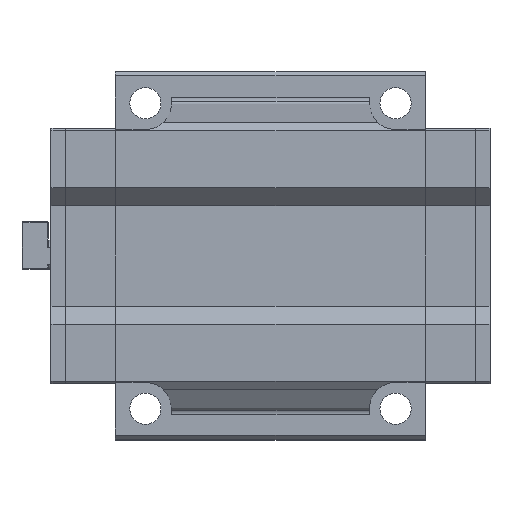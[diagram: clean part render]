
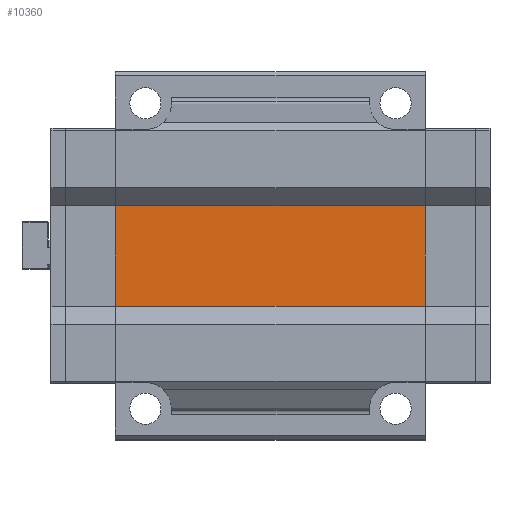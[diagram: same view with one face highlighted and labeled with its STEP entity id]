
A CAD part, front view. The second image highlights one B-rep face of the part: STEP entity #10360.
In plain terms, the highlighted planar face has unit normal (0, -1, 0).
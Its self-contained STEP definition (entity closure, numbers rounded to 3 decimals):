
#211 = CARTESIAN_POINT ( 'NONE',  ( 58.85, 0., 19.55 ) ) ;
#560 = CARTESIAN_POINT ( 'NONE',  ( 77.85, 0., -26.5 ) ) ;
#915 = ORIENTED_EDGE ( 'NONE', *, *, #1923, .T. ) ;
#1187 = CARTESIAN_POINT ( 'NONE',  ( -58.85, 0., -13.25 ) ) ;
#1249 = LINE ( 'NONE', #1187, #9522 ) ;
#1923 = EDGE_CURVE ( 'NONE', #9474, #4274, #7024, .T. ) ;
#2087 = EDGE_LOOP ( 'NONE', ( #5805, #915, #4062, #10129 ) ) ;
#2379 = VERTEX_POINT ( 'NONE', #9417 ) ;
#2477 = DIRECTION ( 'NONE',  ( 0., 1., 0. ) ) ;
#2618 = CARTESIAN_POINT ( 'NONE',  ( -83.35, 0., -19.55 ) ) ;
#3080 = DIRECTION ( 'NONE',  ( 1., 0., 0. ) ) ;
#4062 = ORIENTED_EDGE ( 'NONE', *, *, #10121, .F. ) ;
#4274 = VERTEX_POINT ( 'NONE', #8841 ) ;
#4353 = EDGE_CURVE ( 'NONE', #2379, #7829, #5641, .T. ) ;
#4594 = DIRECTION ( 'NONE',  ( 0., 0., -1. ) ) ;
#5386 = VECTOR ( 'NONE', #3080, 1000. ) ;
#5519 = LINE ( 'NONE', #9047, #11382 ) ;
#5641 = LINE ( 'NONE', #11020, #5386 ) ;
#5732 = CARTESIAN_POINT ( 'NONE',  ( -58.85, 0., -19.55 ) ) ;
#5805 = ORIENTED_EDGE ( 'NONE', *, *, #10674, .F. ) ;
#5966 = FACE_OUTER_BOUND ( 'NONE', #2087, .T. ) ;
#6015 = AXIS2_PLACEMENT_3D ( 'NONE', #560, #2477, #10480 ) ;
#6161 = DIRECTION ( 'NONE',  ( 1., 0., 0. ) ) ;
#6946 = PLANE ( 'NONE',  #6015 ) ;
#7024 = LINE ( 'NONE', #2618, #9908 ) ;
#7829 = VERTEX_POINT ( 'NONE', #211 ) ;
#8216 = DIRECTION ( 'NONE',  ( 0., 0., 1. ) ) ;
#8841 = CARTESIAN_POINT ( 'NONE',  ( 58.85, 0., -19.55 ) ) ;
#9047 = CARTESIAN_POINT ( 'NONE',  ( 58.85, 0., -13.25 ) ) ;
#9417 = CARTESIAN_POINT ( 'NONE',  ( -58.85, 0., 19.55 ) ) ;
#9474 = VERTEX_POINT ( 'NONE', #5732 ) ;
#9522 = VECTOR ( 'NONE', #8216, 1000. ) ;
#9908 = VECTOR ( 'NONE', #6161, 1000. ) ;
#10121 = EDGE_CURVE ( 'NONE', #7829, #4274, #5519, .T. ) ;
#10129 = ORIENTED_EDGE ( 'NONE', *, *, #4353, .F. ) ;
#10360 = ADVANCED_FACE ( 'NONE', ( #5966 ), #6946, .F. ) ;
#10480 = DIRECTION ( 'NONE',  ( -1., 0., 0. ) ) ;
#10674 = EDGE_CURVE ( 'NONE', #9474, #2379, #1249, .T. ) ;
#11020 = CARTESIAN_POINT ( 'NONE',  ( -83.35, 0., 19.55 ) ) ;
#11382 = VECTOR ( 'NONE', #4594, 1000. ) ;
